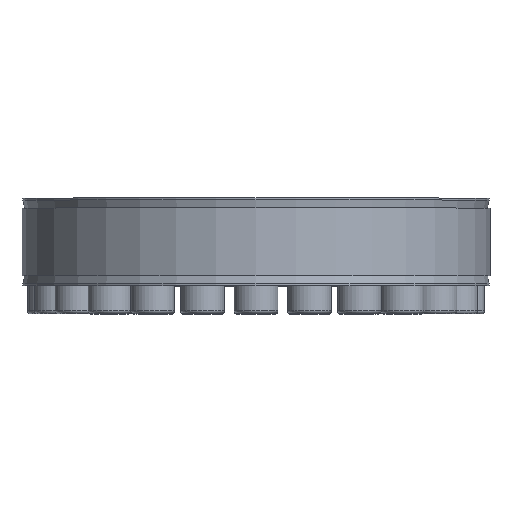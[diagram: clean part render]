
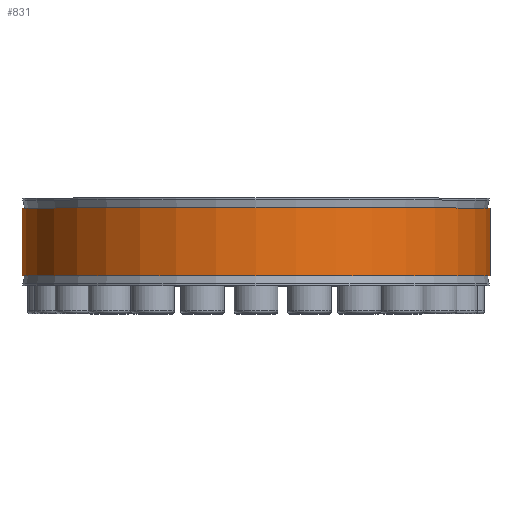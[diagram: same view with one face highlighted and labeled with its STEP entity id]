
A CAD part, top view. The second image highlights one B-rep face of the part: STEP entity #831.
In plain terms, the highlighted cylindrical face has radius 117.5 mm (diameter 235 mm), a partial arc.
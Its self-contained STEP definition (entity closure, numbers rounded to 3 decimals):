
#831 = ADVANCED_FACE( '', ( #1696 ), #1697, .T. );
#1696 = FACE_OUTER_BOUND( '', #3349, .T. );
#1697 = CYLINDRICAL_SURFACE( '', #3350, 117.5 );
#3349 = EDGE_LOOP( '', ( #5095, #5096, #5097, #5098 ) );
#3350 = AXIS2_PLACEMENT_3D( '', #5099, #5100, #5101 );
#5095 = ORIENTED_EDGE( '', *, *, #8894, .F. );
#5096 = ORIENTED_EDGE( '', *, *, #8895, .T. );
#5097 = ORIENTED_EDGE( '', *, *, #8896, .T. );
#5098 = ORIENTED_EDGE( '', *, *, #8897, .F. );
#5099 = CARTESIAN_POINT( '', ( 0., -60., 0. ) );
#5100 = DIRECTION( '', ( 0., -1., 0. ) );
#5101 = DIRECTION( '', ( 0., 0., 1. ) );
#8894 = EDGE_CURVE( '', #9941, #9942, #9943, .F. );
#8895 = EDGE_CURVE( '', #9941, #9944, #9945, .T. );
#8896 = EDGE_CURVE( '', #9944, #9946, #9947, .F. );
#8897 = EDGE_CURVE( '', #9942, #9946, #9948, .T. );
#9941 = VERTEX_POINT( '', #11493 );
#9942 = VERTEX_POINT( '', #11494 );
#9943 = LINE( '', #11495, #11496 );
#9944 = VERTEX_POINT( '', #11497 );
#9945 = CIRCLE( '', #11498, 117.5 );
#9946 = VERTEX_POINT( '', #11499 );
#9947 = LINE( '', #11500, #11501 );
#9948 = CIRCLE( '', #11502, 117.5 );
#11493 = CARTESIAN_POINT( '', ( 1.958, 17., -117.484 ) );
#11494 = CARTESIAN_POINT( '', ( 1.958, -17., -117.484 ) );
#11495 = CARTESIAN_POINT( '', ( 1.958, -60., -117.484 ) );
#11496 = VECTOR( '', #14700, 1000. );
#11497 = CARTESIAN_POINT( '', ( -1.958, 17., -117.484 ) );
#11498 = AXIS2_PLACEMENT_3D( '', #14701, #14702, #14703 );
#11499 = CARTESIAN_POINT( '', ( -1.958, -17., -117.484 ) );
#11500 = CARTESIAN_POINT( '', ( -1.958, -60., -117.484 ) );
#11501 = VECTOR( '', #14704, 1000. );
#11502 = AXIS2_PLACEMENT_3D( '', #14705, #14706, #14707 );
#14700 = DIRECTION( '', ( 0., 1., 0. ) );
#14701 = CARTESIAN_POINT( '', ( 0., 17., 0. ) );
#14702 = DIRECTION( '', ( 0., -1., 0. ) );
#14703 = DIRECTION( '', ( 0., 0., -1. ) );
#14704 = DIRECTION( '', ( 0., 1., 0. ) );
#14705 = CARTESIAN_POINT( '', ( 0., -17., 0. ) );
#14706 = DIRECTION( '', ( 0., -1., 0. ) );
#14707 = DIRECTION( '', ( 0., 0., -1. ) );
